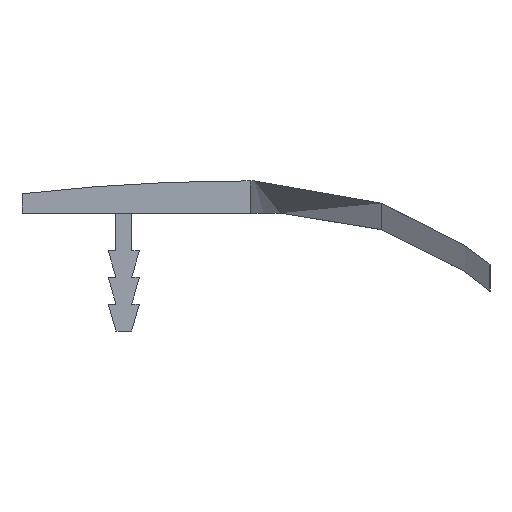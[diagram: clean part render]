
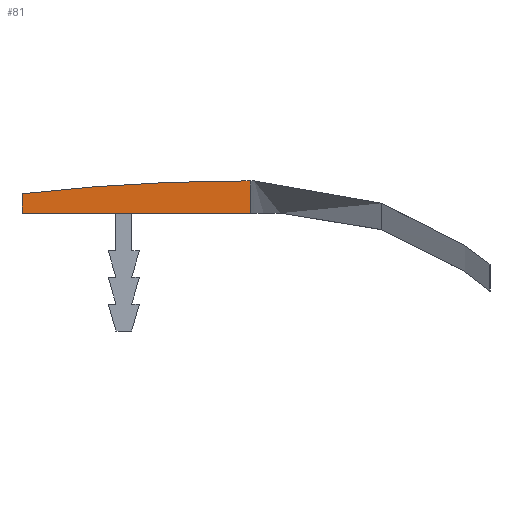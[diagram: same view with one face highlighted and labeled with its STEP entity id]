
A CAD part, left-side view. The second image highlights one B-rep face of the part: STEP entity #81.
In plain terms, the highlighted planar face has unit normal (-1, 0, 0).
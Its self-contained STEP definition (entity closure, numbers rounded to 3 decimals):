
#81 = ADVANCED_FACE( '', ( #177 ), #178, .F. );
#177 = FACE_OUTER_BOUND( '', #288, .T. );
#178 = PLANE( '', #289 );
#288 = EDGE_LOOP( '', ( #392, #393, #394, #395, #396 ) );
#289 = AXIS2_PLACEMENT_3D( '', #397, #398, #399 );
#392 = ORIENTED_EDGE( '', *, *, #692, .F. );
#393 = ORIENTED_EDGE( '', *, *, #693, .F. );
#394 = ORIENTED_EDGE( '', *, *, #694, .F. );
#395 = ORIENTED_EDGE( '', *, *, #695, .F. );
#396 = ORIENTED_EDGE( '', *, *, #696, .F. );
#397 = CARTESIAN_POINT( '', ( -597.5, -12.17, -32.05 ) );
#398 = DIRECTION( '', ( 1., 0., 0. ) );
#399 = DIRECTION( '', ( 0., 0., -1. ) );
#692 = EDGE_CURVE( '', #815, #816, #817, .T. );
#693 = EDGE_CURVE( '', #818, #815, #819, .T. );
#694 = EDGE_CURVE( '', #820, #818, #821, .T. );
#695 = EDGE_CURVE( '', #822, #820, #823, .T. );
#696 = EDGE_CURVE( '', #816, #822, #824, .T. );
#815 = VERTEX_POINT( '', #996 );
#816 = VERTEX_POINT( '', #997 );
#817 = LINE( '', #998, #999 );
#818 = VERTEX_POINT( '', #1000 );
#819 = LINE( '', #1001, #1002 );
#820 = VERTEX_POINT( '', #1003 );
#821 = CIRCLE( '', #1004, 176.85 );
#822 = VERTEX_POINT( '', #1005 );
#823 = LINE( '', #1006, #1007 );
#824 = LINE( '', #1008, #1009 );
#996 = CARTESIAN_POINT( '', ( -597.5, -11.8, 3. ) );
#997 = CARTESIAN_POINT( '', ( -597.5, -11.8, 0. ) );
#998 = CARTESIAN_POINT( '', ( -597.5, -11.8, -32.05 ) );
#999 = VECTOR( '', #1310, 1000. );
#1000 = CARTESIAN_POINT( '', ( -597.5, -11., 3. ) );
#1001 = CARTESIAN_POINT( '', ( -597.5, -11., 3. ) );
#1002 = VECTOR( '', #1311, 1000. );
#1003 = CARTESIAN_POINT( '', ( -597.5, 9.5, 1.808 ) );
#1004 = AXIS2_PLACEMENT_3D( '', #1312, #1313, #1314 );
#1005 = CARTESIAN_POINT( '', ( -597.5, 9.5, 0. ) );
#1006 = CARTESIAN_POINT( '', ( -597.5, 9.5, 0. ) );
#1007 = VECTOR( '', #1315, 1000. );
#1008 = CARTESIAN_POINT( '', ( -597.5, -14.59, 0. ) );
#1009 = VECTOR( '', #1316, 1000. );
#1310 = DIRECTION( '', ( 0., 0., -1. ) );
#1311 = DIRECTION( '', ( 0., -1., 0. ) );
#1312 = CARTESIAN_POINT( '', ( -597.5, -11., -173.85 ) );
#1313 = DIRECTION( '', ( 1., 0., 0. ) );
#1314 = DIRECTION( '', ( 0., 0., -1. ) );
#1315 = DIRECTION( '', ( 0., 0., 1. ) );
#1316 = DIRECTION( '', ( 0., 1., 0. ) );
